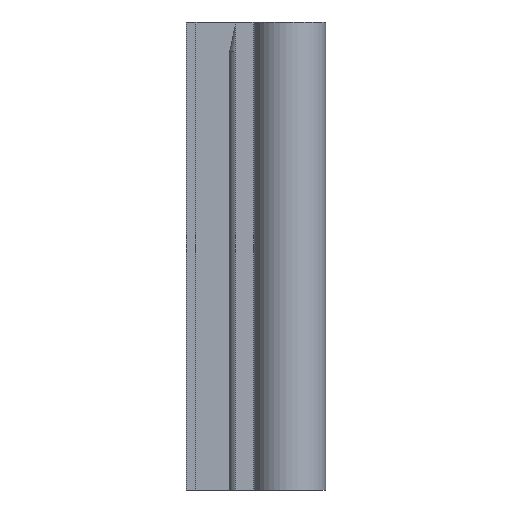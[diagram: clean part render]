
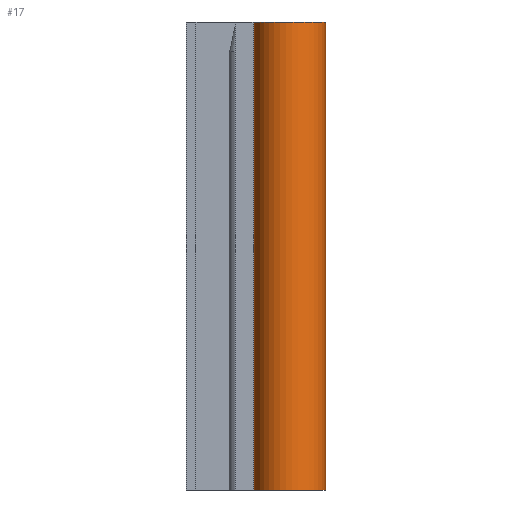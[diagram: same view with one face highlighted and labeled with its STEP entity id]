
A CAD part, front view. The second image highlights one B-rep face of the part: STEP entity #17.
In plain terms, the highlighted cylindrical face has radius 3 mm (diameter 6 mm), a partial arc.
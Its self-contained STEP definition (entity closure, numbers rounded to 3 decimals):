
#17 = ADVANCED_FACE('',(#18),#33,.T.);
#18 = FACE_BOUND('',#19,.F.);
#19 = EDGE_LOOP('',(#20,#56,#82,#115));
#20 = ORIENTED_EDGE('',*,*,#21,.F.);
#21 = EDGE_CURVE('',#22,#24,#26,.T.);
#22 = VERTEX_POINT('',#23);
#23 = CARTESIAN_POINT('',(-69.766,37.,2.96));
#24 = VERTEX_POINT('',#25);
#25 = CARTESIAN_POINT('',(-67.5,39.134,2.96));
#26 = SURFACE_CURVE('',#27,(#32,#44),.PCURVE_S1.);
#27 = CIRCLE('',#28,3.);
#28 = AXIS2_PLACEMENT_3D('',#29,#30,#31);
#29 = CARTESIAN_POINT('',(-66.875,36.2,2.96));
#30 = DIRECTION('',(0.,0.,1.));
#31 = DIRECTION('',(-0.964,0.267,0.));
#32 = PCURVE('',#33,#38);
#33 = CYLINDRICAL_SURFACE('',#34,3.);
#34 = AXIS2_PLACEMENT_3D('',#35,#36,#37);
#35 = CARTESIAN_POINT('',(-66.875,36.2,2.96));
#36 = DIRECTION('',(-0.,-0.,-1.));
#37 = DIRECTION('',(1.,0.,0.));
#38 = DEFINITIONAL_REPRESENTATION('',(#39),#43);
#39 = LINE('',#40,#41);
#40 = CARTESIAN_POINT('',(-2.872,0.));
#41 = VECTOR('',#42,1.);
#42 = DIRECTION('',(-1.,0.));
#43 = ( GEOMETRIC_REPRESENTATION_CONTEXT(2) 
PARAMETRIC_REPRESENTATION_CONTEXT() REPRESENTATION_CONTEXT('2D SPACE',''
  ) );
#44 = PCURVE('',#45,#50);
#45 = PLANE('',#46);
#46 = AXIS2_PLACEMENT_3D('',#47,#48,#49);
#47 = CARTESIAN_POINT('',(-66.875,36.2,2.96));
#48 = DIRECTION('',(0.,0.,1.));
#49 = DIRECTION('',(1.,0.,0.));
#50 = DEFINITIONAL_REPRESENTATION('',(#51),#55);
#51 = CIRCLE('',#52,3.);
#52 = AXIS2_PLACEMENT_2D('',#53,#54);
#53 = CARTESIAN_POINT('',(0.,0.));
#54 = DIRECTION('',(-0.964,0.267));
#55 = ( GEOMETRIC_REPRESENTATION_CONTEXT(2) 
PARAMETRIC_REPRESENTATION_CONTEXT() REPRESENTATION_CONTEXT('2D SPACE',''
  ) );
#56 = ORIENTED_EDGE('',*,*,#57,.F.);
#57 = EDGE_CURVE('',#58,#22,#60,.T.);
#58 = VERTEX_POINT('',#59);
#59 = CARTESIAN_POINT('',(-69.766,37.,42.04));
#60 = SURFACE_CURVE('',#61,(#65,#71),.PCURVE_S1.);
#61 = LINE('',#62,#63);
#62 = CARTESIAN_POINT('',(-69.766,37.,2.96));
#63 = VECTOR('',#64,1.);
#64 = DIRECTION('',(-0.,-0.,-1.));
#65 = PCURVE('',#33,#66);
#66 = DEFINITIONAL_REPRESENTATION('',(#67),#70);
#67 = B_SPLINE_CURVE_WITH_KNOTS('',1,(#68,#69),.UNSPECIFIED.,.F.,.F.,(2,
    2),(-39.08,-0.),.PIECEWISE_BEZIER_KNOTS.);
#68 = CARTESIAN_POINT('',(-2.872,-39.08));
#69 = CARTESIAN_POINT('',(-2.872,0.));
#70 = ( GEOMETRIC_REPRESENTATION_CONTEXT(2) 
PARAMETRIC_REPRESENTATION_CONTEXT() REPRESENTATION_CONTEXT('2D SPACE',''
  ) );
#71 = PCURVE('',#72,#77);
#72 = PLANE('',#73);
#73 = AXIS2_PLACEMENT_3D('',#74,#75,#76);
#74 = CARTESIAN_POINT('',(-75.5,37.,2.96));
#75 = DIRECTION('',(0.,1.,0.));
#76 = DIRECTION('',(1.,0.,0.));
#77 = DEFINITIONAL_REPRESENTATION('',(#78),#81);
#78 = B_SPLINE_CURVE_WITH_KNOTS('',1,(#79,#80),.UNSPECIFIED.,.F.,.F.,(2,
    2),(-39.08,0.),.PIECEWISE_BEZIER_KNOTS.);
#79 = CARTESIAN_POINT('',(5.734,-39.08));
#80 = CARTESIAN_POINT('',(5.734,0.));
#81 = ( GEOMETRIC_REPRESENTATION_CONTEXT(2) 
PARAMETRIC_REPRESENTATION_CONTEXT() REPRESENTATION_CONTEXT('2D SPACE',''
  ) );
#82 = ORIENTED_EDGE('',*,*,#83,.F.);
#83 = EDGE_CURVE('',#84,#58,#86,.T.);
#84 = VERTEX_POINT('',#85);
#85 = CARTESIAN_POINT('',(-67.5,39.134,42.04));
#86 = SURFACE_CURVE('',#87,(#92,#99),.PCURVE_S1.);
#87 = CIRCLE('',#88,3.);
#88 = AXIS2_PLACEMENT_3D('',#89,#90,#91);
#89 = CARTESIAN_POINT('',(-66.875,36.2,42.04));
#90 = DIRECTION('',(0.,0.,-1.));
#91 = DIRECTION('',(-0.208,0.978,0.));
#92 = PCURVE('',#33,#93);
#93 = DEFINITIONAL_REPRESENTATION('',(#94),#98);
#94 = LINE('',#95,#96);
#95 = CARTESIAN_POINT('',(-8.064,-39.08));
#96 = VECTOR('',#97,1.);
#97 = DIRECTION('',(1.,-0.));
#98 = ( GEOMETRIC_REPRESENTATION_CONTEXT(2) 
PARAMETRIC_REPRESENTATION_CONTEXT() REPRESENTATION_CONTEXT('2D SPACE',''
  ) );
#99 = PCURVE('',#100,#105);
#100 = PLANE('',#101);
#101 = AXIS2_PLACEMENT_3D('',#102,#103,#104);
#102 = CARTESIAN_POINT('',(-66.875,36.2,42.04));
#103 = DIRECTION('',(0.,0.,1.));
#104 = DIRECTION('',(1.,0.,0.));
#105 = DEFINITIONAL_REPRESENTATION('',(#106),#114);
#106 = ( BOUNDED_CURVE() B_SPLINE_CURVE(2,(#107,#108,#109,#110,#111,#112
,#113),.UNSPECIFIED.,.T.,.F.) B_SPLINE_CURVE_WITH_KNOTS((1,2,2,2,2,1),(
    -2.094,0.,2.094,4.189,6.283,
8.378),.UNSPECIFIED.) CURVE() GEOMETRIC_REPRESENTATION_ITEM() 
RATIONAL_B_SPLINE_CURVE((1.,0.5,1.,0.5,1.,0.5,1.)) REPRESENTATION_ITEM(
  '') );
#107 = CARTESIAN_POINT('',(-0.625,2.934));
#108 = CARTESIAN_POINT('',(4.457,4.017));
#109 = CARTESIAN_POINT('',(2.854,-0.926));
#110 = CARTESIAN_POINT('',(1.25,-5.868));
#111 = CARTESIAN_POINT('',(-2.229,-2.008));
#112 = CARTESIAN_POINT('',(-5.707,1.852));
#113 = CARTESIAN_POINT('',(-0.625,2.934));
#114 = ( GEOMETRIC_REPRESENTATION_CONTEXT(2) 
PARAMETRIC_REPRESENTATION_CONTEXT() REPRESENTATION_CONTEXT('2D SPACE',''
  ) );
#115 = ORIENTED_EDGE('',*,*,#116,.T.);
#116 = EDGE_CURVE('',#84,#24,#117,.T.);
#117 = SURFACE_CURVE('',#118,(#122,#128),.PCURVE_S1.);
#118 = LINE('',#119,#120);
#119 = CARTESIAN_POINT('',(-67.5,39.134,2.96));
#120 = VECTOR('',#121,1.);
#121 = DIRECTION('',(-0.,-0.,-1.));
#122 = PCURVE('',#33,#123);
#123 = DEFINITIONAL_REPRESENTATION('',(#124),#127);
#124 = B_SPLINE_CURVE_WITH_KNOTS('',1,(#125,#126),.UNSPECIFIED.,.F.,.F.,
  (2,2),(-39.08,-0.),.PIECEWISE_BEZIER_KNOTS.);
#125 = CARTESIAN_POINT('',(-8.064,-39.08));
#126 = CARTESIAN_POINT('',(-8.064,0.));
#127 = ( GEOMETRIC_REPRESENTATION_CONTEXT(2) 
PARAMETRIC_REPRESENTATION_CONTEXT() REPRESENTATION_CONTEXT('2D SPACE',''
  ) );
#128 = PCURVE('',#129,#134);
#129 = PLANE('',#130);
#130 = AXIS2_PLACEMENT_3D('',#131,#132,#133);
#131 = CARTESIAN_POINT('',(-67.5,37.,2.96));
#132 = DIRECTION('',(-1.,0.,0.));
#133 = DIRECTION('',(0.,1.,0.));
#134 = DEFINITIONAL_REPRESENTATION('',(#135),#138);
#135 = B_SPLINE_CURVE_WITH_KNOTS('',1,(#136,#137),.UNSPECIFIED.,.F.,.F.,
  (2,2),(-39.08,0.),.PIECEWISE_BEZIER_KNOTS.);
#136 = CARTESIAN_POINT('',(2.134,-39.08));
#137 = CARTESIAN_POINT('',(2.134,0.));
#138 = ( GEOMETRIC_REPRESENTATION_CONTEXT(2) 
PARAMETRIC_REPRESENTATION_CONTEXT() REPRESENTATION_CONTEXT('2D SPACE',''
  ) );
